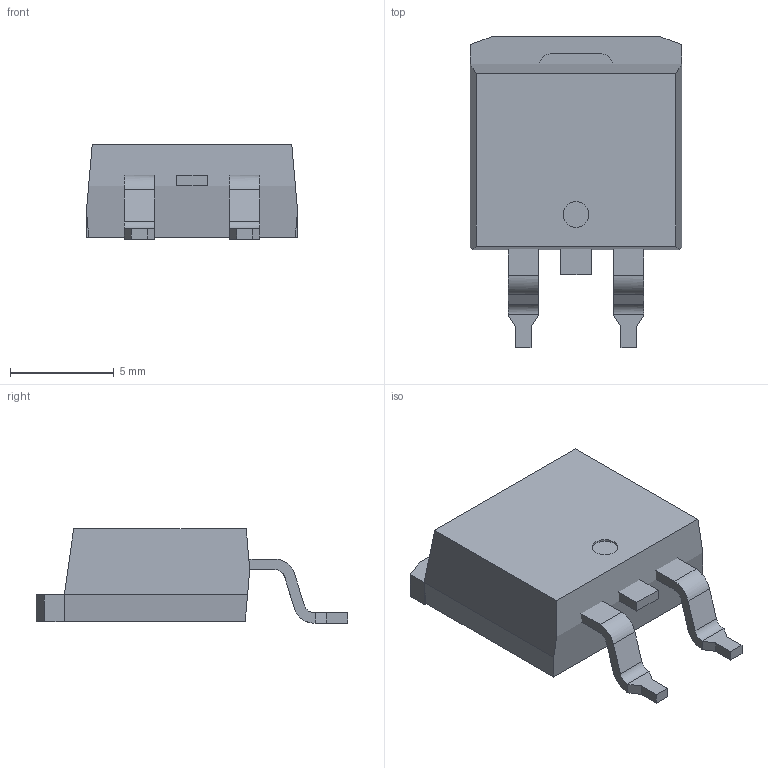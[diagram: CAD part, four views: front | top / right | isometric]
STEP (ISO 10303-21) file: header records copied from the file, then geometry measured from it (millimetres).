
FILE_DESCRIPTION(/* description */ ('Unknown'),/* implementation_level */ '2;1');
FILE_NAME(/* name */ 'TO-263AB-L A',/* time_stamp */ '2024-01-03T16:31:41+08:00',/* author */ ('Unknown'),/* organization */ ('Unknown'),/* preprocessor_version */ 'ST-DEVELOPER v18.104',/* originating_system */ 'Solid Edge',/* authorisation */ 'Unknown');
FILE_SCHEMA (('AUTOMOTIVE_DESIGN {1 0 10303 214 3 1 1}'));
Length unit declared in the file: millimetre
Products named in the file (1): TO-263AB-L A
Bounding box: 10.16 x 15 x 4.54 mm (x, y, z)
Volume: 473.6 mm3; surface area: 586.9 mm2
Topology: 6 solids, 6 shells, 83 faces, 208 edges, 138 vertices
Faces by surface type: plane 70, cylinder 13
Full cylindrical faces by diameter (mm): 1.234 x1
Entity records: 2507 total; most frequent: CARTESIAN_POINT 429, ORIENTED_EDGE 414, DIRECTION 401, EDGE_CURVE 207, LINE 181, VECTOR 181, VERTEX_POINT 138, AXIS2_PLACEMENT_3D 110
